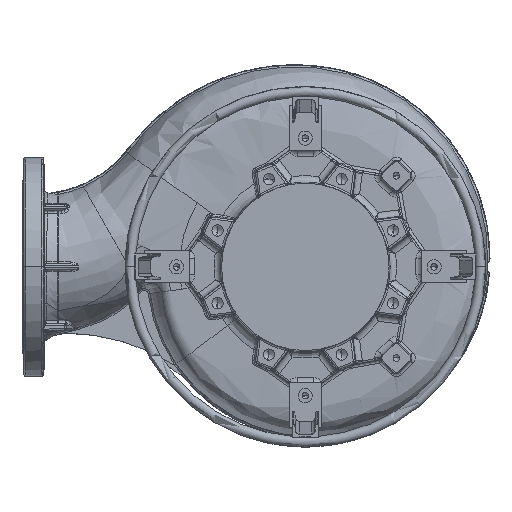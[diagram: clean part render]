
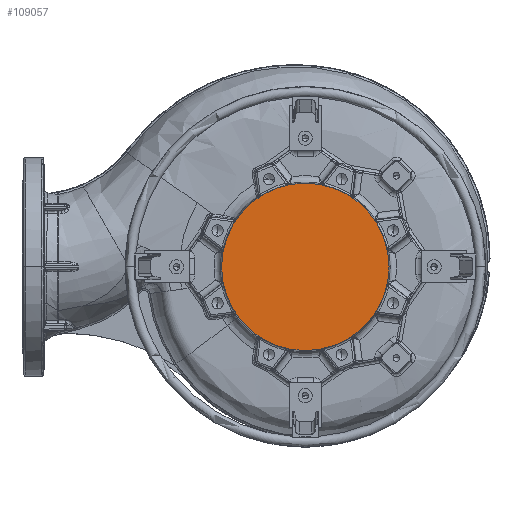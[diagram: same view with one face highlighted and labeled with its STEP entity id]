
A CAD part, front view. The second image highlights one B-rep face of the part: STEP entity #109057.
In plain terms, the highlighted planar face has unit normal (0, -1, 0).
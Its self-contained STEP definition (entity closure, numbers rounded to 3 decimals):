
#12033 = DIRECTION ( 'NONE',  ( -1., 0., 0. ) ) ;
#25205 = ORIENTED_EDGE ( 'NONE', *, *, #66057, .T. ) ;
#32488 = FACE_OUTER_BOUND ( 'NONE', #127554, .T. ) ;
#37378 = ORIENTED_EDGE ( 'NONE', *, *, #103635, .T. ) ;
#57717 = DIRECTION ( 'NONE',  ( 0., -1., 0. ) ) ;
#60079 = CIRCLE ( 'NONE', #137220, 130. ) ;
#63709 = AXIS2_PLACEMENT_3D ( 'NONE', #135320, #57717, #148312 ) ;
#66057 = EDGE_CURVE ( 'NONE', #156757, #90828, #91587, .T. ) ;
#68327 = CARTESIAN_POINT ( 'NONE',  ( 0., -578.5, 0. ) ) ;
#81178 = DIRECTION ( 'NONE',  ( 1., 0., 0. ) ) ;
#89134 = DIRECTION ( 'NONE',  ( 0., 1., 0. ) ) ;
#90828 = VERTEX_POINT ( 'NONE', #130484 ) ;
#91587 = CIRCLE ( 'NONE', #63709, 130. ) ;
#103635 = EDGE_CURVE ( 'NONE', #90828, #156757, #60079, .T. ) ;
#109057 = ADVANCED_FACE ( 'NONE', ( #32488 ), #114885, .F. ) ;
#110682 = CARTESIAN_POINT ( 'NONE',  ( 130., -578.5, 0. ) ) ;
#114885 = PLANE ( 'NONE',  #153208 ) ;
#127554 = EDGE_LOOP ( 'NONE', ( #37378, #25205 ) ) ;
#130484 = CARTESIAN_POINT ( 'NONE',  ( -130., -578.5, 0. ) ) ;
#135320 = CARTESIAN_POINT ( 'NONE',  ( 0., -578.5, 0. ) ) ;
#137220 = AXIS2_PLACEMENT_3D ( 'NONE', #68327, #158965, #81178 ) ;
#148312 = DIRECTION ( 'NONE',  ( 1., 0., 0. ) ) ;
#153208 = AXIS2_PLACEMENT_3D ( 'NONE', #166970, #89134, #12033 ) ;
#156757 = VERTEX_POINT ( 'NONE', #110682 ) ;
#158965 = DIRECTION ( 'NONE',  ( 0., -1., 0. ) ) ;
#166970 = CARTESIAN_POINT ( 'NONE',  ( 0., -578.5, 0. ) ) ;
